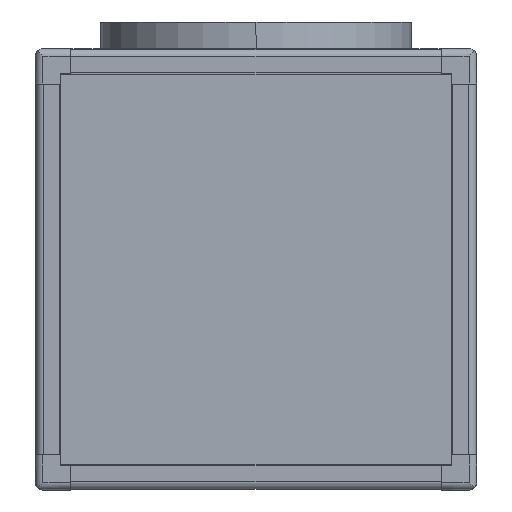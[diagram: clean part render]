
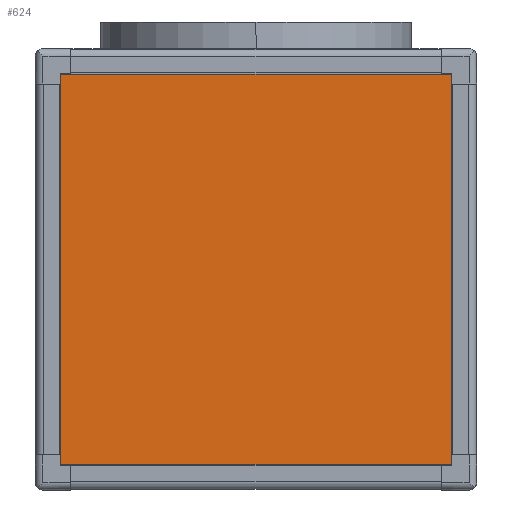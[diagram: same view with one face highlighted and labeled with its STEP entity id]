
A CAD part, front view. The second image highlights one B-rep face of the part: STEP entity #624.
In plain terms, the highlighted planar face has unit normal (0, -1, 0).
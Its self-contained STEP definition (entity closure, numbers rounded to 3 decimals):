
#624=ADVANCED_FACE('',(#1623),#1624,.T.);
#1623=FACE_OUTER_BOUND('',#3218,.T.);
#1624=PLANE('',#3219);
#3218=EDGE_LOOP('',(#5845,#5846,#5847,#5848));
#3219=AXIS2_PLACEMENT_3D('',#5849,#5850,#5851);
#5845=ORIENTED_EDGE('',*,*,#11488,.T.);
#5846=ORIENTED_EDGE('',*,*,#11482,.T.);
#5847=ORIENTED_EDGE('',*,*,#11471,.T.);
#5848=ORIENTED_EDGE('',*,*,#11475,.T.);
#5849=CARTESIAN_POINT('',(0.,-351.0,0.));
#5850=DIRECTION('',(0.,-1.0,0.));
#5851=DIRECTION('',(-1.0,0.,0.0));
#11471=EDGE_CURVE('',#15229,#15227,#15230,.T.);
#11475=EDGE_CURVE('',#15227,#15233,#15235,.T.);
#11482=EDGE_CURVE('',#15245,#15229,#15247,.T.);
#11488=EDGE_CURVE('',#15233,#15245,#15257,.T.);
#15227=VERTEX_POINT('',#22888);
#15229=VERTEX_POINT('',#22891);
#15230=LINE('',#22892,#22893);
#15233=VERTEX_POINT('',#22897);
#15235=LINE('',#22900,#22901);
#15245=VERTEX_POINT('',#22915);
#15247=LINE('',#22918,#22919);
#15257=LINE('',#22933,#22934);
#22888=CARTESIAN_POINT('',(314.0,-351.0,314.0));
#22891=CARTESIAN_POINT('',(314.0,-351.0,-314.0));
#22892=CARTESIAN_POINT('',(314.0,-351.0,0.));
#22893=VECTOR('',#29222,1.0);
#22897=CARTESIAN_POINT('',(-314.0,-351.0,314.0));
#22900=CARTESIAN_POINT('',(0.,-351.0,314.0));
#22901=VECTOR('',#29225,1.0);
#22915=CARTESIAN_POINT('',(-314.0,-351.0,-314.0));
#22918=CARTESIAN_POINT('',(0.,-351.0,-314.0));
#22919=VECTOR('',#29231,1.0);
#22933=CARTESIAN_POINT('',(-314.0,-351.0,0.));
#22934=VECTOR('',#29236,1.0);
#29222=DIRECTION('',(0.,0.,1.0));
#29225=DIRECTION('',(-1.0,0.,0.0));
#29231=DIRECTION('',(1.0,0.,0.0));
#29236=DIRECTION('',(0.,0.,-1.0));
